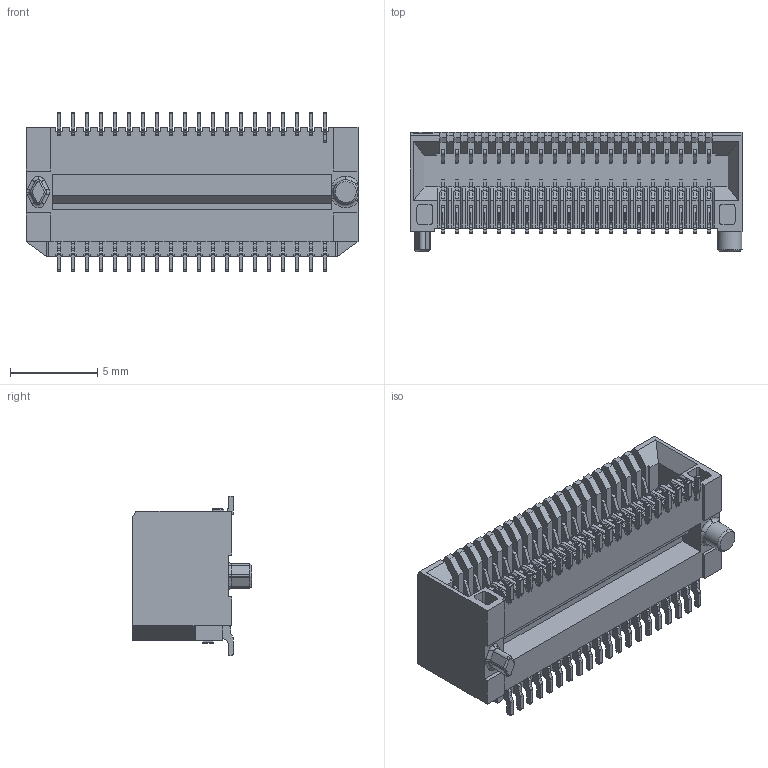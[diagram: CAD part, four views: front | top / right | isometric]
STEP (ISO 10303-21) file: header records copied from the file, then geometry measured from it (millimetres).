
FILE_DESCRIPTION (( 'STEP AP214' ), '1' );
FILE_NAME ('8208-2X20C30DR2PNT.STEP', '2023-05-02T11:21:52', ( '' ), ( '' ), 'SwSTEP 2.0', 'SolidWorks 2011', '' );
FILE_SCHEMA (( 'AUTOMOTIVE_DESIGN' ));
Length unit declared in the file: millimetre
Products named in the file (1): 8208-2X20C30DR2PNT
Bounding box: 19 x 6.83 x 9.1 mm (x, y, z)
Volume: 467.9 mm3; surface area: 1280.4 mm2
Topology: 1 solids, 1 shells, 2145 faces, 6427 edges, 4286 vertices
Faces by surface type: plane 1537, cylinder 589, torus 9, cone 7, bspline 3
Entity records: 96564 total; most frequent: CARTESIAN_POINT 17244, ORIENTED_EDGE 12850, DIRECTION 10066, EDGE_CURVE 6425, LINE 4490, VECTOR 4490, VERTEX_POINT 4286, AXIS2_PLACEMENT_3D 2788
